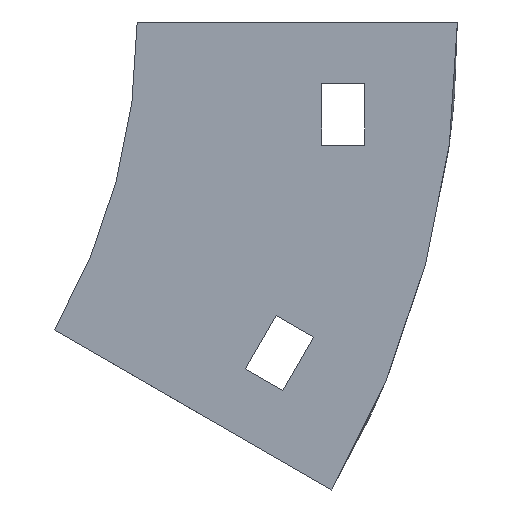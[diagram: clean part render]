
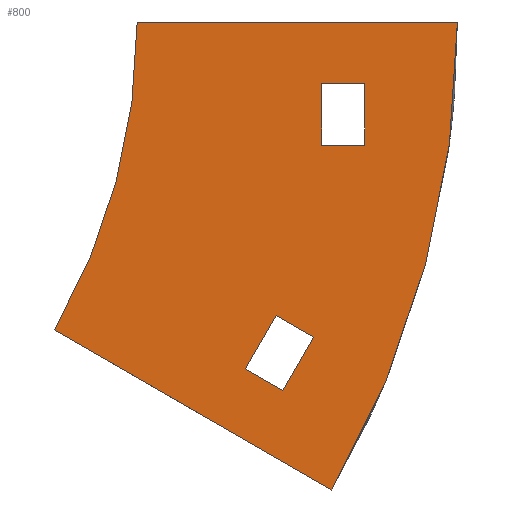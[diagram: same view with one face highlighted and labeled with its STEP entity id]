
A CAD part, left-side view. The second image highlights one B-rep face of the part: STEP entity #800.
In plain terms, the highlighted planar face has unit normal (-1, 0, 0).
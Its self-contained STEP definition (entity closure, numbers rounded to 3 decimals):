
#10 = EDGE_CURVE ( 'NONE', #709, #876, #331, .T. ) ;
#29 = DIRECTION ( 'NONE',  ( 1., 0., 0. ) ) ;
#38 = DIRECTION ( 'NONE',  ( 0., 0., -1. ) ) ;
#56 = ORIENTED_EDGE ( 'NONE', *, *, #1033, .F. ) ;
#92 = DIRECTION ( 'NONE',  ( 0., 0., -1. ) ) ;
#115 = CARTESIAN_POINT ( 'NONE',  ( -77., -37., -20. ) ) ;
#123 = VECTOR ( 'NONE', #567, 1000. ) ;
#127 = VERTEX_POINT ( 'NONE', #481 ) ;
#132 = CARTESIAN_POINT ( 'NONE',  ( -77., 100., 0. ) ) ;
#139 = VECTOR ( 'NONE', #464, 1000. ) ;
#140 = VECTOR ( 'NONE', #224, 1000. ) ;
#143 = ORIENTED_EDGE ( 'NONE', *, *, #194, .F. ) ;
#150 = VECTOR ( 'NONE', #862, 1000. ) ;
#163 = VERTEX_POINT ( 'NONE', #305 ) ;
#166 = CARTESIAN_POINT ( 'NONE',  ( -77., -37., -10. ) ) ;
#177 = ORIENTED_EDGE ( 'NONE', *, *, #898, .T. ) ;
#180 = LINE ( 'NONE', #532, #1107 ) ;
#186 = FACE_OUTER_BOUND ( 'NONE', #595, .T. ) ;
#194 = EDGE_CURVE ( 'NONE', #1075, #476, #1016, .T. ) ;
#197 = ORIENTED_EDGE ( 'NONE', *, *, #501, .T. ) ;
#213 = LINE ( 'NONE', #667, #150 ) ;
#215 = ORIENTED_EDGE ( 'NONE', *, *, #562, .F. ) ;
#217 = LINE ( 'NONE', #1124, #140 ) ;
#224 = DIRECTION ( 'NONE',  ( 0., -1., 0. ) ) ;
#237 = CARTESIAN_POINT ( 'NONE',  ( -77., 13.397, -50. ) ) ;
#256 = VERTEX_POINT ( 'NONE', #832 ) ;
#265 = FACE_BOUND ( 'NONE', #1050, .T. ) ;
#298 = VECTOR ( 'NONE', #1038, 1000. ) ;
#305 = CARTESIAN_POINT ( 'NONE',  ( -77., -52., 0. ) ) ;
#331 = LINE ( 'NONE', #499, #588 ) ;
#342 = CARTESIAN_POINT ( 'NONE',  ( -77., -23.645, -59.84 ) ) ;
#364 = AXIS2_PLACEMENT_3D ( 'NONE', #931, #940, #935 ) ;
#367 = ORIENTED_EDGE ( 'NONE', *, *, #569, .F. ) ;
#406 = CARTESIAN_POINT ( 'NONE',  ( -77., -22.583, -47.679 ) ) ;
#461 = PLANE ( 'NONE',  #678 ) ;
#464 = DIRECTION ( 'NONE',  ( 0., 0., 1. ) ) ;
#476 = VERTEX_POINT ( 'NONE', #702 ) ;
#481 = CARTESIAN_POINT ( 'NONE',  ( -77., -30., -20. ) ) ;
#492 = DIRECTION ( 'NONE',  ( 0., 0.5, -0.866 ) ) ;
#499 = CARTESIAN_POINT ( 'NONE',  ( -77., -23.645, -59.84 ) ) ;
#501 = EDGE_CURVE ( 'NONE', #127, #1118, #634, .T. ) ;
#507 = VERTEX_POINT ( 'NONE', #733 ) ;
#512 = VERTEX_POINT ( 'NONE', #1081 ) ;
#531 = EDGE_LOOP ( 'NONE', ( #759, #143, #367, #1142 ) ) ;
#532 = CARTESIAN_POINT ( 'NONE',  ( -77., -37., -10. ) ) ;
#540 = FACE_BOUND ( 'NONE', #531, .T. ) ;
#543 = VECTOR ( 'NONE', #492, 1000. ) ;
#555 = LINE ( 'NONE', #791, #1042 ) ;
#562 = EDGE_CURVE ( 'NONE', #256, #163, #217, .T. ) ;
#567 = DIRECTION ( 'NONE',  ( 0., 0.866, 0.5 ) ) ;
#569 = EDGE_CURVE ( 'NONE', #876, #1075, #1031, .T. ) ;
#574 = EDGE_CURVE ( 'NONE', #1118, #707, #1024, .T. ) ;
#588 = VECTOR ( 'NONE', #1131, 1000. ) ;
#594 = DIRECTION ( 'NONE',  ( 0., -0.866, -0.5 ) ) ;
#595 = EDGE_LOOP ( 'NONE', ( #56, #766, #1125, #215 ) ) ;
#634 = LINE ( 'NONE', #997, #139 ) ;
#635 = EDGE_CURVE ( 'NONE', #163, #512, #797, .T. ) ;
#658 = CARTESIAN_POINT ( 'NONE',  ( -77., -22.583, -47.679 ) ) ;
#667 = CARTESIAN_POINT ( 'NONE',  ( -77., -30., -20. ) ) ;
#678 = AXIS2_PLACEMENT_3D ( 'NONE', #981, #811, #912 ) ;
#681 = VERTEX_POINT ( 'NONE', #115 ) ;
#684 = ORIENTED_EDGE ( 'NONE', *, *, #1022, .T. ) ;
#702 = CARTESIAN_POINT ( 'NONE',  ( -77., -17.583, -56.34 ) ) ;
#707 = VERTEX_POINT ( 'NONE', #166 ) ;
#709 = VERTEX_POINT ( 'NONE', #342 ) ;
#719 = AXIS2_PLACEMENT_3D ( 'NONE', #132, #29, #38 ) ;
#733 = CARTESIAN_POINT ( 'NONE',  ( -77., 13.397, -50. ) ) ;
#759 = ORIENTED_EDGE ( 'NONE', *, *, #829, .F. ) ;
#766 = ORIENTED_EDGE ( 'NONE', *, *, #1100, .F. ) ;
#791 = CARTESIAN_POINT ( 'NONE',  ( -77., -17.583, -56.34 ) ) ;
#795 = VECTOR ( 'NONE', #943, 1000. ) ;
#797 = CIRCLE ( 'NONE', #719, 152. ) ;
#800 = ADVANCED_FACE ( 'NONE', ( #186, #265, #540 ), #461, .F. ) ;
#811 = DIRECTION ( 'NONE',  ( 1., 0., 0. ) ) ;
#816 = CARTESIAN_POINT ( 'NONE',  ( -77., -28.645, -51.179 ) ) ;
#829 = EDGE_CURVE ( 'NONE', #476, #709, #555, .T. ) ;
#832 = CARTESIAN_POINT ( 'NONE',  ( -77., 0., 0. ) ) ;
#862 = DIRECTION ( 'NONE',  ( 0., 1., 0. ) ) ;
#876 = VERTEX_POINT ( 'NONE', #816 ) ;
#898 = EDGE_CURVE ( 'NONE', #707, #681, #180, .T. ) ;
#912 = DIRECTION ( 'NONE',  ( 0., 0., -1. ) ) ;
#931 = CARTESIAN_POINT ( 'NONE',  ( -77., 100., 0. ) ) ;
#935 = DIRECTION ( 'NONE',  ( 0., 0., -1. ) ) ;
#940 = DIRECTION ( 'NONE',  ( -1., 0., 0. ) ) ;
#943 = DIRECTION ( 'NONE',  ( 0., 0.866, 0.5 ) ) ;
#951 = ORIENTED_EDGE ( 'NONE', *, *, #574, .T. ) ;
#958 = CIRCLE ( 'NONE', #364, 100. ) ;
#966 = CARTESIAN_POINT ( 'NONE',  ( -77., -30., -10. ) ) ;
#981 = CARTESIAN_POINT ( 'NONE',  ( -77., 100., 0. ) ) ;
#997 = CARTESIAN_POINT ( 'NONE',  ( -77., -30., -10. ) ) ;
#1016 = LINE ( 'NONE', #1039, #543 ) ;
#1020 = LINE ( 'NONE', #237, #123 ) ;
#1022 = EDGE_CURVE ( 'NONE', #681, #127, #213, .T. ) ;
#1024 = LINE ( 'NONE', #1044, #298 ) ;
#1031 = LINE ( 'NONE', #658, #795 ) ;
#1033 = EDGE_CURVE ( 'NONE', #507, #256, #958, .T. ) ;
#1038 = DIRECTION ( 'NONE',  ( 0., -1., 0. ) ) ;
#1039 = CARTESIAN_POINT ( 'NONE',  ( -77., -17.583, -56.34 ) ) ;
#1042 = VECTOR ( 'NONE', #594, 1000. ) ;
#1044 = CARTESIAN_POINT ( 'NONE',  ( -77., -30., -10. ) ) ;
#1050 = EDGE_LOOP ( 'NONE', ( #197, #951, #177, #684 ) ) ;
#1075 = VERTEX_POINT ( 'NONE', #406 ) ;
#1081 = CARTESIAN_POINT ( 'NONE',  ( -77., -31.636, -76. ) ) ;
#1100 = EDGE_CURVE ( 'NONE', #512, #507, #1020, .T. ) ;
#1107 = VECTOR ( 'NONE', #92, 1000. ) ;
#1118 = VERTEX_POINT ( 'NONE', #966 ) ;
#1124 = CARTESIAN_POINT ( 'NONE',  ( -77., -52., 0. ) ) ;
#1125 = ORIENTED_EDGE ( 'NONE', *, *, #635, .F. ) ;
#1131 = DIRECTION ( 'NONE',  ( 0., -0.5, 0.866 ) ) ;
#1142 = ORIENTED_EDGE ( 'NONE', *, *, #10, .F. ) ;
